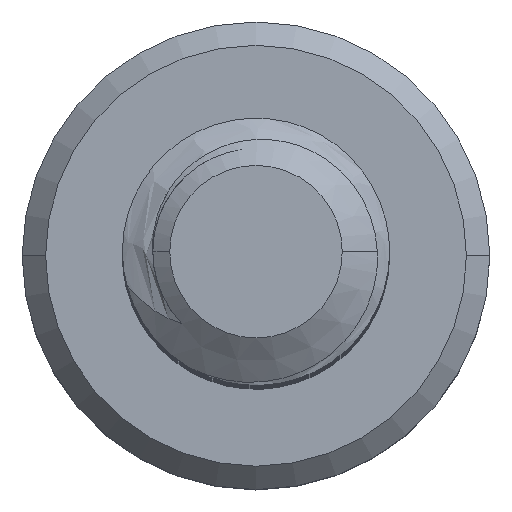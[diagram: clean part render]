
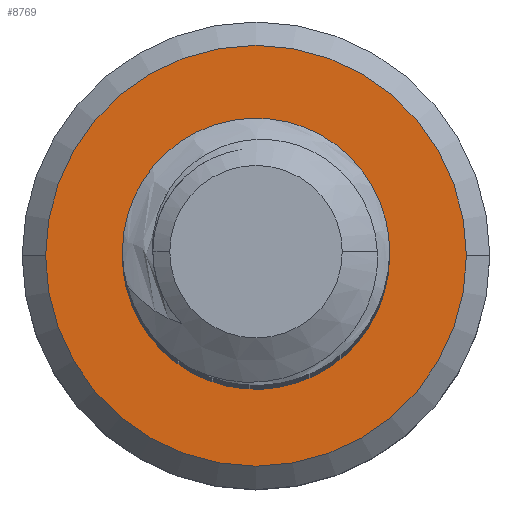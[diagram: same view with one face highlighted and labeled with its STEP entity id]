
A CAD part, top view. The second image highlights one B-rep face of the part: STEP entity #8769.
In plain terms, the highlighted planar face has unit normal (0, 0, 1).
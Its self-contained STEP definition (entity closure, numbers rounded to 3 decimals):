
#312 = CARTESIAN_POINT ( 'NONE',  ( -1.771, -0.39, -35. ) ) ;
#354 = CARTESIAN_POINT ( 'NONE',  ( -1.61, 1.142, -35. ) ) ;
#533 = DIRECTION ( 'NONE',  ( -1., 0., 0. ) ) ;
#638 = CIRCLE ( 'NONE', #11750, 2. ) ;
#727 = EDGE_LOOP ( 'NONE', ( #6661, #7199 ) ) ;
#732 = CARTESIAN_POINT ( 'NONE',  ( -3.15, 0., -35. ) ) ;
#772 = PLANE ( 'NONE',  #4024 ) ;
#800 = CARTESIAN_POINT ( 'NONE',  ( 1.715, 0.109, -35. ) ) ;
#955 = CARTESIAN_POINT ( 'NONE',  ( 0., 2., -35. ) ) ;
#965 = EDGE_CURVE ( 'NONE', #2990, #2762, #10973, .T. ) ;
#1344 = CARTESIAN_POINT ( 'NONE',  ( -1.301, -1.128, -35. ) ) ;
#1550 = DIRECTION ( 'NONE',  ( 1., 0., 0. ) ) ;
#1586 = ORIENTED_EDGE ( 'NONE', *, *, #8564, .T. ) ;
#1634 = CARTESIAN_POINT ( 'NONE',  ( 0., 0., -35. ) ) ;
#1755 = DIRECTION ( 'NONE',  ( 0., 0., -1. ) ) ;
#1798 = CIRCLE ( 'NONE', #7340, 3.15 ) ;
#1843 = CARTESIAN_POINT ( 'NONE',  ( -1.401, 1.427, -35. ) ) ;
#1852 = CARTESIAN_POINT ( 'NONE',  ( 1.606, -0.408, -35. ) ) ;
#1887 = CARTESIAN_POINT ( 'NONE',  ( 0., 0., -35. ) ) ;
#1934 = CARTESIAN_POINT ( 'NONE',  ( 1.697, -0.067, -35. ) ) ;
#2138 = CARTESIAN_POINT ( 'NONE',  ( 0., -1.545, -35. ) ) ;
#2220 = CARTESIAN_POINT ( 'NONE',  ( -1.166, -1.24, -35. ) ) ;
#2298 = VERTEX_POINT ( 'NONE', #1843 ) ;
#2304 = CARTESIAN_POINT ( 'NONE',  ( -1.864, 0.307, -35. ) ) ;
#2429 = CARTESIAN_POINT ( 'NONE',  ( 0., 0., -35. ) ) ;
#2762 = VERTEX_POINT ( 'NONE', #11913 ) ;
#2797 = CARTESIAN_POINT ( 'NONE',  ( 0.177, 1.985, -35. ) ) ;
#2866 = VERTEX_POINT ( 'NONE', #732 ) ;
#2896 = CARTESIAN_POINT ( 'NONE',  ( 0., 2., -35. ) ) ;
#2990 = VERTEX_POINT ( 'NONE', #2896 ) ;
#3045 = CARTESIAN_POINT ( 'NONE',  ( -1.759, 0.825, -35. ) ) ;
#3249 = B_SPLINE_CURVE_WITH_KNOTS ( 'NONE', 3,
 ( #2138, #10863, #4000, #6006, #7024, #2220, #1344, #8809, #10829, #312, #9737, #7999, #2304, #5021, #3045, #354, #6903, #10697 ),
 .UNSPECIFIED., .F., .F.,
 ( 4, 2, 2, 2, 2, 2, 2, 2, 4 ),
 ( 0., 0.001, 0.001, 0.002, 0.002, 0.003, 0.003, 0.004, 0.004 ),
 .UNSPECIFIED. ) ;
#3467 = EDGE_CURVE ( 'NONE', #12357, #2866, #11824, .T. ) ;
#3472 = ORIENTED_EDGE ( 'NONE', *, *, #8324, .T. ) ;
#3616 = AXIS2_PLACEMENT_3D ( 'NONE', #1887, #1755, #5585 ) ;
#3708 = CARTESIAN_POINT ( 'NONE',  ( 1.449, 1.118, -35. ) ) ;
#3750 = CARTESIAN_POINT ( 'NONE',  ( 1.112, 1.523, -35. ) ) ;
#3829 = CARTESIAN_POINT ( 'NONE',  ( 1.698, 0.46, -35. ) ) ;
#4000 = CARTESIAN_POINT ( 'NONE',  ( -0.351, -1.557, -35. ) ) ;
#4024 = AXIS2_PLACEMENT_3D ( 'NONE', #4622, #12354, #8578 ) ;
#4112 = FACE_BOUND ( 'NONE', #8009, .T. ) ;
#4427 = FACE_OUTER_BOUND ( 'NONE', #727, .T. ) ;
#4622 = CARTESIAN_POINT ( 'NONE',  ( 0., 0., -35. ) ) ;
#4648 = CARTESIAN_POINT ( 'NONE',  ( 1.537, 0.961, -35. ) ) ;
#4693 = CARTESIAN_POINT ( 'NONE',  ( 1.661, 0.635, -35. ) ) ;
#4769 = AXIS2_PLACEMENT_3D ( 'NONE', #1634, #12173, #533 ) ;
#5021 = CARTESIAN_POINT ( 'NONE',  ( -1.811, 0.653, -35. ) ) ;
#5476 = CARTESIAN_POINT ( 'NONE',  ( 0., -1.545, -35. ) ) ;
#5585 = DIRECTION ( 'NONE',  ( 1., 0., 0. ) ) ;
#5634 = CARTESIAN_POINT ( 'NONE',  ( 1.224, -0.995, -35. ) ) ;
#6006 = CARTESIAN_POINT ( 'NONE',  ( -0.697, -1.483, -35. ) ) ;
#6176 = DIRECTION ( 'NONE',  ( -1., 0., 0. ) ) ;
#6330 = CIRCLE ( 'NONE', #3616, 1.545 ) ;
#6661 = ORIENTED_EDGE ( 'NONE', *, *, #7354, .T. ) ;
#6903 = CARTESIAN_POINT ( 'NONE',  ( -1.515, 1.291, -35. ) ) ;
#7024 = CARTESIAN_POINT ( 'NONE',  ( -0.861, -1.42, -35. ) ) ;
#7199 = ORIENTED_EDGE ( 'NONE', *, *, #3467, .T. ) ;
#7262 = DIRECTION ( 'NONE',  ( 0., 0., 1. ) ) ;
#7340 = AXIS2_PLACEMENT_3D ( 'NONE', #9065, #9026, #6176 ) ;
#7354 = EDGE_CURVE ( 'NONE', #2866, #12357, #1798, .T. ) ;
#7454 = CARTESIAN_POINT ( 'NONE',  ( 1.083, -1.103, -35. ) ) ;
#7502 = CARTESIAN_POINT ( 'NONE',  ( 0.347, 1.945, -35. ) ) ;
#7576 = CARTESIAN_POINT ( 'NONE',  ( 1.238, 1.397, -35. ) ) ;
#7624 = CARTESIAN_POINT ( 'NONE',  ( 0.831, 1.733, -35. ) ) ;
#7957 = VERTEX_POINT ( 'NONE', #5476 ) ;
#7999 = CARTESIAN_POINT ( 'NONE',  ( -1.866, 0.129, -35. ) ) ;
#8009 = EDGE_LOOP ( 'NONE', ( #9824, #11609, #3472, #1586 ) ) ;
#8324 = EDGE_CURVE ( 'NONE', #2762, #7957, #6330, .T. ) ;
#8564 = EDGE_CURVE ( 'NONE', #7957, #2298, #3249, .T. ) ;
#8578 = DIRECTION ( 'NONE',  ( -1., 0., 0. ) ) ;
#8599 = CARTESIAN_POINT ( 'NONE',  ( 1.342, -0.866, -35. ) ) ;
#8769 = ADVANCED_FACE ( 'NONE', ( #4427, #4112 ), #772, .F. ) ;
#8809 = CARTESIAN_POINT ( 'NONE',  ( -1.533, -0.862, -35. ) ) ;
#9026 = DIRECTION ( 'NONE',  ( 0., 0., 1. ) ) ;
#9065 = CARTESIAN_POINT ( 'NONE',  ( 0., 0., -35. ) ) ;
#9148 = CARTESIAN_POINT ( 'NONE',  ( 3.15, 0., -35. ) ) ;
#9737 = CARTESIAN_POINT ( 'NONE',  ( -1.82, -0.219, -35. ) ) ;
#9824 = ORIENTED_EDGE ( 'NONE', *, *, #10902, .F. ) ;
#10697 = CARTESIAN_POINT ( 'NONE',  ( -1.401, 1.427, -35. ) ) ;
#10829 = CARTESIAN_POINT ( 'NONE',  ( -1.627, -0.711, -35. ) ) ;
#10863 = CARTESIAN_POINT ( 'NONE',  ( -0.176, -1.565, -35. ) ) ;
#10902 = EDGE_CURVE ( 'NONE', #2990, #2298, #638, .T. ) ;
#10973 = B_SPLINE_CURVE_WITH_KNOTS ( 'NONE', 3,
 ( #955, #2797, #7502, #11390, #7624, #3750, #7576, #3708, #4648, #4693, #3829, #800, #1934, #1852, #12337, #8599, #5634, #7454 ),
 .UNSPECIFIED., .F., .F.,
 ( 4, 2, 2, 2, 2, 2, 2, 2, 4 ),
 ( 0., 0.001, 0.001, 0.002, 0.002, 0.003, 0.003, 0.004, 0.004 ),
 .UNSPECIFIED. ) ;
#11390 = CARTESIAN_POINT ( 'NONE',  ( 0.677, 1.819, -35. ) ) ;
#11609 = ORIENTED_EDGE ( 'NONE', *, *, #965, .T. ) ;
#11750 = AXIS2_PLACEMENT_3D ( 'NONE', #2429, #7262, #1550 ) ;
#11824 = CIRCLE ( 'NONE', #4769, 3.15 ) ;
#11913 = CARTESIAN_POINT ( 'NONE',  ( 1.083, -1.103, -35. ) ) ;
#12173 = DIRECTION ( 'NONE',  ( 0., 0., 1. ) ) ;
#12337 = CARTESIAN_POINT ( 'NONE',  ( 1.534, -0.568, -35. ) ) ;
#12354 = DIRECTION ( 'NONE',  ( 0., 0., -1. ) ) ;
#12357 = VERTEX_POINT ( 'NONE', #9148 ) ;
